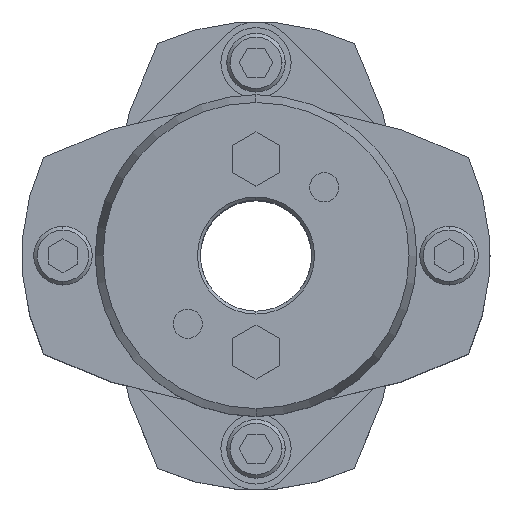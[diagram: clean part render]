
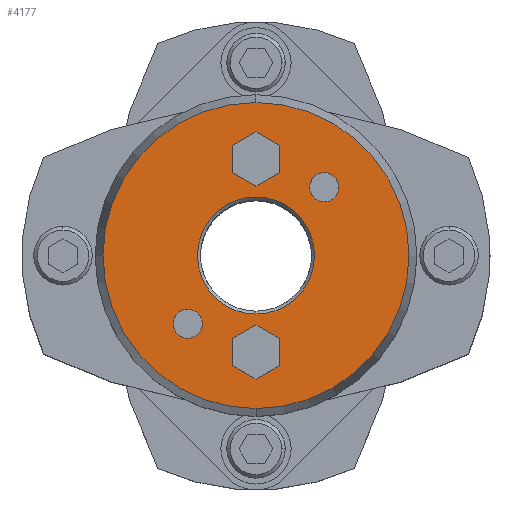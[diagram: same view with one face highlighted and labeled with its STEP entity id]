
A CAD part, top view. The second image highlights one B-rep face of the part: STEP entity #4177.
In plain terms, the highlighted planar face has unit normal (0, 0, 1).
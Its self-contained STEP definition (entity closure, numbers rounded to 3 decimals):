
#2291=CARTESIAN_POINT('',(0.,10.,45.25));
#2292=VERTEX_POINT('',#2291);
#2308=CARTESIAN_POINT('',(0.,-10.,45.25));
#2309=VERTEX_POINT('',#2308);
#2316=CARTESIAN_POINT('',(0.,0.,45.25));
#2317=DIRECTION('',(0.0,0.0,1.0));
#2318=DIRECTION('',(0.,1.0,0.0));
#2319=AXIS2_PLACEMENT_3D('',#2316,#2317,#2318);
#2320=CIRCLE('',#2319,10.0);
#2321=EDGE_CURVE('',#2309,#2292,#2320,.T.);
#2479=CARTESIAN_POINT('',(0.,-26.16,45.25));
#2480=VERTEX_POINT('',#2479);
#2487=CARTESIAN_POINT('',(0.,26.16,45.25));
#2488=VERTEX_POINT('',#2487);
#2489=CARTESIAN_POINT('',(0.,0.,45.25));
#2490=DIRECTION('',(0.0,0.0,-1.0));
#2491=DIRECTION('',(0.,-1.0,0.0));
#2492=AXIS2_PLACEMENT_3D('',#2489,#2490,#2491);
#2493=CIRCLE('',#2492,26.16);
#2494=EDGE_CURVE('',#2480,#2488,#2493,.T.);
#2589=CARTESIAN_POINT('',(11.667,14.167,45.25));
#2590=VERTEX_POINT('',#2589);
#2606=CARTESIAN_POINT('',(11.667,9.167,45.25));
#2607=VERTEX_POINT('',#2606);
#2614=CARTESIAN_POINT('',(11.667,11.667,45.25));
#2615=DIRECTION('',(0.0,0.0,-1.0));
#2616=DIRECTION('',(0.,1.0,0.0));
#2617=AXIS2_PLACEMENT_3D('',#2614,#2615,#2616);
#2618=CIRCLE('',#2617,2.5);
#2619=EDGE_CURVE('',#2590,#2607,#2618,.T.);
#2631=CARTESIAN_POINT('',(-11.667,-9.167,45.25));
#2632=VERTEX_POINT('',#2631);
#2648=CARTESIAN_POINT('',(-11.667,-14.167,45.25));
#2649=VERTEX_POINT('',#2648);
#2656=CARTESIAN_POINT('',(-11.667,-11.667,45.25));
#2657=DIRECTION('',(0.0,0.0,-1.0));
#2658=DIRECTION('',(0.,1.0,0.0));
#2659=AXIS2_PLACEMENT_3D('',#2656,#2657,#2658);
#2660=CIRCLE('',#2659,2.5);
#2661=EDGE_CURVE('',#2632,#2649,#2660,.T.);
#3412=CARTESIAN_POINT('',(-11.667,-11.667,45.25));
#3413=DIRECTION('',(0.0,0.0,-1.0));
#3414=DIRECTION('',(0.,1.0,0.0));
#3415=AXIS2_PLACEMENT_3D('',#3412,#3413,#3414);
#3416=CIRCLE('',#3415,2.5);
#3417=EDGE_CURVE('',#2649,#2632,#3416,.T.);
#3446=CARTESIAN_POINT('',(11.667,11.667,45.25));
#3447=DIRECTION('',(0.0,0.0,-1.0));
#3448=DIRECTION('',(0.,1.0,0.0));
#3449=AXIS2_PLACEMENT_3D('',#3446,#3447,#3448);
#3450=CIRCLE('',#3449,2.5);
#3451=EDGE_CURVE('',#2607,#2590,#3450,.T.);
#3489=CARTESIAN_POINT('',(0.,-11.881,45.25));
#3490=VERTEX_POINT('',#3489);
#3497=CARTESIAN_POINT('',(-4.,-14.191,45.25));
#3498=VERTEX_POINT('',#3497);
#3499=CARTESIAN_POINT('',(-4.,-14.191,45.25));
#3500=DIRECTION('',(0.866,0.5,0.0));
#3501=VECTOR('',#3500,4.619);
#3502=LINE('',#3499,#3501);
#3503=EDGE_CURVE('',#3498,#3490,#3502,.T.);
#3527=CARTESIAN_POINT('',(4.,-14.191,45.25));
#3528=VERTEX_POINT('',#3527);
#3535=CARTESIAN_POINT('',(0.,-11.881,45.25));
#3536=DIRECTION('',(0.866,-0.5,0.0));
#3537=VECTOR('',#3536,4.619);
#3538=LINE('',#3535,#3537);
#3539=EDGE_CURVE('',#3490,#3528,#3538,.T.);
#3558=CARTESIAN_POINT('',(4.,-18.809,45.25));
#3559=VERTEX_POINT('',#3558);
#3566=CARTESIAN_POINT('',(4.,-14.191,45.25));
#3567=DIRECTION('',(0.,-1.0,0.0));
#3568=VECTOR('',#3567,4.619);
#3569=LINE('',#3566,#3568);
#3570=EDGE_CURVE('',#3528,#3559,#3569,.T.);
#3589=CARTESIAN_POINT('',(0.,-21.119,45.25));
#3590=VERTEX_POINT('',#3589);
#3597=CARTESIAN_POINT('',(4.,-18.809,45.25));
#3598=DIRECTION('',(-0.866,-0.5,0.0));
#3599=VECTOR('',#3598,4.619);
#3600=LINE('',#3597,#3599);
#3601=EDGE_CURVE('',#3559,#3590,#3600,.T.);
#3620=CARTESIAN_POINT('',(-4.,-18.809,45.25));
#3621=VERTEX_POINT('',#3620);
#3628=CARTESIAN_POINT('',(0.,-21.119,45.25));
#3629=DIRECTION('',(-0.866,0.5,0.0));
#3630=VECTOR('',#3629,4.619);
#3631=LINE('',#3628,#3630);
#3632=EDGE_CURVE('',#3590,#3621,#3631,.T.);
#3650=CARTESIAN_POINT('',(-4.,-18.809,45.25));
#3651=DIRECTION('',(0.,1.0,0.0));
#3652=VECTOR('',#3651,4.619);
#3653=LINE('',#3650,#3652);
#3654=EDGE_CURVE('',#3621,#3498,#3653,.T.);
#3689=CARTESIAN_POINT('',(0.,21.119,45.25));
#3690=VERTEX_POINT('',#3689);
#3697=CARTESIAN_POINT('',(-4.,18.809,45.25));
#3698=VERTEX_POINT('',#3697);
#3699=CARTESIAN_POINT('',(-4.,18.809,45.25));
#3700=DIRECTION('',(0.866,0.5,0.0));
#3701=VECTOR('',#3700,4.619);
#3702=LINE('',#3699,#3701);
#3703=EDGE_CURVE('',#3698,#3690,#3702,.T.);
#3727=CARTESIAN_POINT('',(4.,18.809,45.25));
#3728=VERTEX_POINT('',#3727);
#3735=CARTESIAN_POINT('',(0.,21.119,45.25));
#3736=DIRECTION('',(0.866,-0.5,0.0));
#3737=VECTOR('',#3736,4.619);
#3738=LINE('',#3735,#3737);
#3739=EDGE_CURVE('',#3690,#3728,#3738,.T.);
#3758=CARTESIAN_POINT('',(4.,14.191,45.25));
#3759=VERTEX_POINT('',#3758);
#3766=CARTESIAN_POINT('',(4.,18.809,45.25));
#3767=DIRECTION('',(0.,-1.0,0.0));
#3768=VECTOR('',#3767,4.619);
#3769=LINE('',#3766,#3768);
#3770=EDGE_CURVE('',#3728,#3759,#3769,.T.);
#3789=CARTESIAN_POINT('',(0.,11.881,45.25));
#3790=VERTEX_POINT('',#3789);
#3797=CARTESIAN_POINT('',(4.,14.191,45.25));
#3798=DIRECTION('',(-0.866,-0.5,0.0));
#3799=VECTOR('',#3798,4.619);
#3800=LINE('',#3797,#3799);
#3801=EDGE_CURVE('',#3759,#3790,#3800,.T.);
#3820=CARTESIAN_POINT('',(-4.,14.191,45.25));
#3821=VERTEX_POINT('',#3820);
#3828=CARTESIAN_POINT('',(0.,11.881,45.25));
#3829=DIRECTION('',(-0.866,0.5,0.0));
#3830=VECTOR('',#3829,4.619);
#3831=LINE('',#3828,#3830);
#3832=EDGE_CURVE('',#3790,#3821,#3831,.T.);
#3850=CARTESIAN_POINT('',(-4.,14.191,45.25));
#3851=DIRECTION('',(0.,1.0,0.0));
#3852=VECTOR('',#3851,4.619);
#3853=LINE('',#3850,#3852);
#3854=EDGE_CURVE('',#3821,#3698,#3853,.T.);
#4124=CARTESIAN_POINT('',(0.,0.,45.25));
#4125=DIRECTION('',(0.0,0.0,-1.0));
#4126=DIRECTION('',(0.,-1.0,0.0));
#4127=AXIS2_PLACEMENT_3D('',#4124,#4125,#4126);
#4128=CIRCLE('',#4127,26.16);
#4129=EDGE_CURVE('',#2488,#2480,#4128,.T.);
#4134=CARTESIAN_POINT('',(0.,2.364,45.25));
#4135=DIRECTION('',(0.0,0.0,1.0));
#4136=DIRECTION('',(0.,1.0,0.0));
#4137=AXIS2_PLACEMENT_3D('',#4134,#4135,#4136);
#4138=PLANE('',#4137);
#4139=ORIENTED_EDGE('',*,*,#4129,.F.);
#4140=ORIENTED_EDGE('',*,*,#2494,.F.);
#4141=EDGE_LOOP('',(#4139,#4140));
#4142=FACE_OUTER_BOUND('',#4141,.T.);
#4143=ORIENTED_EDGE('',*,*,#2661,.T.);
#4144=ORIENTED_EDGE('',*,*,#3417,.T.);
#4145=EDGE_LOOP('',(#4143,#4144));
#4146=FACE_BOUND('',#4145,.T.);
#4147=ORIENTED_EDGE('',*,*,#2619,.T.);
#4148=ORIENTED_EDGE('',*,*,#3451,.T.);
#4149=EDGE_LOOP('',(#4147,#4148));
#4150=FACE_BOUND('',#4149,.T.);
#4151=ORIENTED_EDGE('',*,*,#3503,.T.);
#4152=ORIENTED_EDGE('',*,*,#3539,.T.);
#4153=ORIENTED_EDGE('',*,*,#3570,.T.);
#4154=ORIENTED_EDGE('',*,*,#3601,.T.);
#4155=ORIENTED_EDGE('',*,*,#3632,.T.);
#4156=ORIENTED_EDGE('',*,*,#3654,.T.);
#4157=EDGE_LOOP('',(#4151,#4152,#4153,#4154,#4155,#4156));
#4158=FACE_BOUND('',#4157,.T.);
#4159=ORIENTED_EDGE('',*,*,#3703,.T.);
#4160=ORIENTED_EDGE('',*,*,#3739,.T.);
#4161=ORIENTED_EDGE('',*,*,#3770,.T.);
#4162=ORIENTED_EDGE('',*,*,#3801,.T.);
#4163=ORIENTED_EDGE('',*,*,#3832,.T.);
#4164=ORIENTED_EDGE('',*,*,#3854,.T.);
#4165=EDGE_LOOP('',(#4159,#4160,#4161,#4162,#4163,#4164));
#4166=FACE_BOUND('',#4165,.T.);
#4167=ORIENTED_EDGE('',*,*,#2321,.F.);
#4168=CARTESIAN_POINT('',(0.,0.,45.25));
#4169=DIRECTION('',(0.0,0.0,1.0));
#4170=DIRECTION('',(0.,1.0,0.0));
#4171=AXIS2_PLACEMENT_3D('',#4168,#4169,#4170);
#4172=CIRCLE('',#4171,10.0);
#4173=EDGE_CURVE('',#2292,#2309,#4172,.T.);
#4174=ORIENTED_EDGE('',*,*,#4173,.F.);
#4175=EDGE_LOOP('',(#4167,#4174));
#4176=FACE_BOUND('',#4175,.T.);
#4177=ADVANCED_FACE('',(#4142,#4146,#4150,#4158,#4166,#4176),#4138,.T.);
